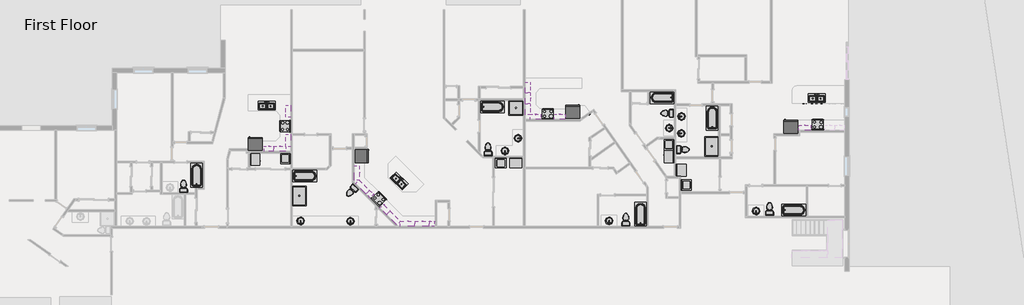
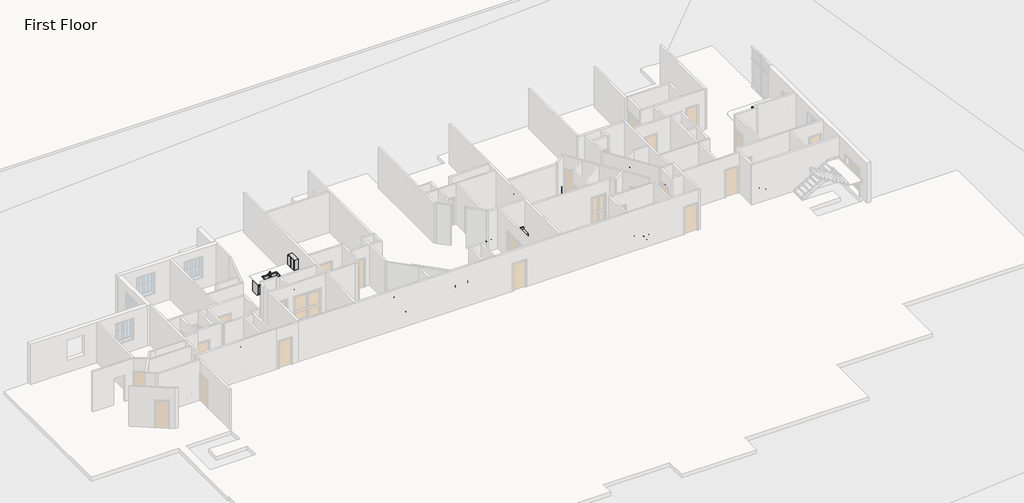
# One storey, part 15 of 17: 68 furniture elements, 29 flow terminals, 16 proxies.
"""IFC4 building model written with IfcOpenShell, lengths in millimetres."""

from ifc_helpers import new_model, si_unit, origin, place, context, project, spatial, transform, mapped, element, save
from components import proxy_6b4a07a9, proxy_fbb4c072, proxy_93150df1, proxy_9109806d, proxy_718fa39f, flow_terminal_54cced83, flow_terminal_5dba0d75, flow_terminal_a53be723, flow_terminal_d49f872f, toilet_domestic_3d_toilet_domestic_3d_f7549cf7, toilet_domestic_3d_toilet_domestic_3d_183bbd19, toilet_domestic_3d_toilet_domestic_3d_a08e12bc, toilet_domestic_3d_toilet_domestic_3d_5530cc89, tub_rectangular_3d_tub_rectangular_3d_72a4d900, tub_rectangular_3d_tub_rectangular_3d_cbc2c449, furniture_0fc2bd2a, furniture_337523c0, furniture_6e8794dd, furniture_07bc9410, furniture_6ace90bf, furniture_b282fead, furniture_6a014568, furniture_338da5bd, furniture_b74d3f52, furniture_7de88fd5, furniture_b6fbc004, furniture_b4094f2d, furniture_07c0da44, furniture_bfd559e3, base_cabinet_filler_base_cabinet_filler_dff9ed13, base_cabinet_filler_base_cabinet_filler_01d9e414, base_cabinet_filler_base_cabinet_filler_890d7b95, base_cabinet_filler_base_cabinet_filler_ec835e29, base_cabinet_filler_base_cabinet_filler_2f0b3f4e, base_cabinet_filler_base_cabinet_filler_5f1ac9d6, base_cabinet_filler_base_cabinet_filler_83579e99, base_cabinet_filler_base_cabinet_filler_783ad0b1, base_cabinet_filler_base_cabinet_filler_ca2a3ea1, furniture_de2c603d, furniture_a8c34398, furniture_09d05a5b, furniture_b1f16c95, furniture_c6a3367d, upper_cabinet_filler_wall_upper_cabinet_filler_wall_ebdf5134, furniture_d9efccb3, furniture_a47b5ef4, furniture_b880e30f, furniture_9117db5d, furniture_b34976c1, furniture_fa9c5d5b

model = new_model("IFC4")

# Units and contexts
model_context = context("Model", 3, world=origin())
ifc_project = project(units=[si_unit("LENGTHUNIT", "METRE", prefix="MILLI")], contexts=[model_context])

# Site, building, storey
site = spatial("IfcSite", under=ifc_project)
building = spatial("IfcBuilding", under=site)
storey = spatial("IfcBuildingStorey", under=building, Name="First Floor", Elevation=0.0)

# Proxies
placement = place(None, origin())
proxy_shape = proxy_6b4a07a9(model_context)
element("IfcBuildingElementProxy", 1, Name="Dryer : 30\" x 25\" x 35\"", ObjectType="Dryer : 30\" x 25\" x 35\"", at=placement, inside=storey, context=model_context, shape_type="MappedRepresentation", body=[
    mapped(proxy_shape, transform((20016.6056012, 6188.6428501, 0.0), x_axis=(0.0, 1.0, 0.0), y_axis=(-1.0, 0.0, 0.0), z_axis=(0.0, 0.0, 1.0))),
])
element("IfcBuildingElementProxy", 2, Name="Dryer : 30\" x 25\" x 35\"", ObjectType="Dryer : 30\" x 25\" x 35\"", at=placement, inside=storey, context=model_context, shape_type="MappedRepresentation", body=[
    mapped(proxy_shape, transform((35783.3803438, 6069.89864, 0.0), x_axis=(1.0, 0.0, 0.0), y_axis=(0.0, 1.0, 0.0), z_axis=(0.0, 0.0, 1.0))),
])
element("IfcBuildingElementProxy", 3, Name="Dryer : 30\" x 25\" x 35\"", ObjectType="Dryer : 30\" x 25\" x 35\"", at=placement, inside=storey, context=model_context, shape_type="MappedRepresentation", body=[
    mapped(proxy_shape, transform((45605.9742487, 7175.2177628, 0.0), x_axis=(0.0, -1.0, 0.0), y_axis=(1.0, 0.0, 0.0), z_axis=(0.0, 0.0, 1.0))),
])
element("IfcBuildingElementProxy", 4, Name="Dryer : 30\" x 25\" x 35\"", ObjectType="Dryer : 30\" x 25\" x 35\"", at=placement, inside=storey, context=model_context, shape_type="MappedRepresentation", body=[
    mapped(proxy_shape, transform((46984.5962563, 5488.2018914, 0.0), x_axis=(0.0, 1.0, 0.0), y_axis=(-1.0, 0.0, 0.0), z_axis=(0.0, 0.0, 1.0))),
])
proxy_2_shape = proxy_fbb4c072(model_context)
element("IfcBuildingElementProxy", 5, Name="Range : 30\" x 26\"", ObjectType="Range : 30\" x 26\"", at=placement, inside=storey, context=model_context, shape_type="MappedRepresentation", body=[
    mapped(proxy_2_shape, transform((55706.1485135, 9105.3667096, 0.0), x_axis=(-1.0, 0.0, 0.0), y_axis=(0.0, -1.0, 0.0), z_axis=(0.0, 0.0, 1.0))),
])
element("IfcBuildingElementProxy", 6, Name="Range : 30\" x 26\"", ObjectType="Range : 30\" x 26\"", at=placement, inside=storey, context=model_context, shape_type="MappedRepresentation", body=[
    mapped(proxy_2_shape, transform((38622.0783397, 9780.1410099, 0.0), x_axis=(-1.0, 0.0, 0.0), y_axis=(0.0, -1.0, 0.0), z_axis=(0.0, 0.0, 1.0))),
])
element("IfcBuildingElementProxy", 7, Name="Range : 30\" x 26\"", ObjectType="Range : 30\" x 26\"", at=placement, inside=storey, context=model_context, shape_type="MappedRepresentation", body=[
    mapped(proxy_2_shape, transform((28043.6511381, 4045.4027795, 0.0), x_axis=(-0.7071067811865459, 0.7071067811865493, 0.0), y_axis=(-0.7071067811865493, -0.7071067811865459, 0.0), z_axis=(0.0, 0.0, 1.0))),
])
element("IfcBuildingElementProxy", 8, Name="Range : 30\" x 26\"", ObjectType="Range : 30\" x 26\"", at=placement, inside=storey, context=model_context, shape_type="MappedRepresentation", body=[
    mapped(proxy_2_shape, transform((21305.5073571, 9084.405075, 0.0), x_axis=(0.0, -1.0, 0.0), y_axis=(1.0, 0.0, 0.0), z_axis=(0.0, 0.0, 1.0))),
])
proxy_3_shape = proxy_93150df1(model_context)
element("IfcBuildingElementProxy", 9, Name="Refrigerator : 35\" x 32\" LH", ObjectType="Refrigerator : 35\" x 32\" LH", at=placement, inside=storey, context=model_context, shape_type="MappedRepresentation", body=[
    mapped(proxy_3_shape, transform((39817.0847694, 9590.3888634, 0.0), x_axis=(-1.0, 0.0, 0.0), y_axis=(0.0, -1.0, 0.0), z_axis=(0.0, 0.0, 1.0))),
])
proxy_4_shape = proxy_9109806d(model_context)
element("IfcBuildingElementProxy", 10, Name="Refrigerator : 35\" x 32\" RH", ObjectType="Refrigerator : 35\" x 32\" RH", at=placement, inside=storey, context=model_context, shape_type="MappedRepresentation", body=[
    mapped(proxy_4_shape, transform((53624.9360135, 8648.9949749, 0.0), x_axis=(-1.0, 0.0, 0.0), y_axis=(0.0, -1.0, 0.0), z_axis=(0.0, 0.0, 1.0))),
])
element("IfcBuildingElementProxy", 11, Name="Refrigerator : 35\" x 32\" RH", ObjectType="Refrigerator : 35\" x 32\" RH", at=placement, inside=storey, context=model_context, shape_type="MappedRepresentation", body=[
    mapped(proxy_4_shape, transform((26450.70388, 6811.7574244, 0.0), x_axis=(0.0020172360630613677, 0.9999979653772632, 0.0), y_axis=(-0.9999979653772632, 0.0020172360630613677, 0.0), z_axis=(0.0, 0.0, 1.0))),
])
element("IfcBuildingElementProxy", 12, Name="Refrigerator : 35\" x 32\" RH", ObjectType="Refrigerator : 35\" x 32\" RH", at=placement, inside=storey, context=model_context, shape_type="MappedRepresentation", body=[
    mapped(proxy_4_shape, transform((19720.4542781, 7559.8584529, 0.0), x_axis=(-1.0, 0.0, 0.0), y_axis=(0.0, -1.0, 0.0), z_axis=(0.0, 0.0, 1.0))),
])
proxy_5_shape = proxy_718fa39f(model_context)
element("IfcBuildingElementProxy", 13, Name="Washer : 27\" x 25\" x 35\"", ObjectType="Washer : 27\" x 25\" x 35\"", at=placement, inside=storey, context=model_context, shape_type="MappedRepresentation", body=[
    mapped(proxy_5_shape, transform((21369.2577923, 7066.4225435, 0.0), x_axis=(0.0, -1.0, 0.0), y_axis=(1.0, 0.0, 0.0), z_axis=(0.0, 0.0, 1.0))),
])
element("IfcBuildingElementProxy", 14, Name="Washer : 27\" x 25\" x 35\"", ObjectType="Washer : 27\" x 25\" x 35\"", at=placement, inside=storey, context=model_context, shape_type="MappedRepresentation", body=[
    mapped(proxy_5_shape, transform((34845.0746645, 6105.410079, 0.0), x_axis=(1.0, 0.0, 0.0), y_axis=(0.0, 1.0, 0.0), z_axis=(0.0, 0.0, 1.0))),
])
element("IfcBuildingElementProxy", 15, Name="Washer : 27\" x 25\" x 35\"", ObjectType="Washer : 27\" x 25\" x 35\"", at=placement, inside=storey, context=model_context, shape_type="MappedRepresentation", body=[
    mapped(proxy_5_shape, transform((47265.412252, 4547.012838, 0.0), x_axis=(0.0, 1.0, 0.0), y_axis=(-1.0, 0.0, 0.0), z_axis=(0.0, 0.0, 1.0))),
])
element("IfcBuildingElementProxy", 16, Name="Washer : 27\" x 25\" x 35\"", ObjectType="Washer : 27\" x 25\" x 35\"", at=placement, inside=storey, context=model_context, shape_type="MappedRepresentation", body=[
    mapped(proxy_5_shape, transform((45641.4856877, 7942.380883, 0.0), x_axis=(0.0, -1.0, 0.0), y_axis=(1.0, 0.0, 0.0), z_axis=(0.0, 0.0, 1.0))),
])

# Flow terminals
flow_terminal_shape = flow_terminal_54cced83(model_context)
element("IfcFlowTerminal", 17, ObjectType="Shower Base-3D : 36\" x 36\"", at=placement, inside=storey, context=model_context, shape_type="MappedRepresentation", body=[
    mapped(flow_terminal_shape, transform((36225.8678001, 9849.9910099, 0.0), x_axis=(1.0, 0.0, 0.0), y_axis=(0.0, 1.0, 0.0), z_axis=(0.0, 0.0, 1.0))),
])
flow_terminal_2_shape = flow_terminal_5dba0d75(model_context)
element("IfcFlowTerminal", 18, ObjectType="Shower Base-3D : 48\" x 34\"", at=placement, inside=storey, context=model_context, shape_type="MappedRepresentation", body=[
    mapped(flow_terminal_2_shape, transform((48606.6852525, 7416.8, 0.0), x_axis=(0.0, 1.0, 0.0), y_axis=(-1.0, 0.0, 0.0), z_axis=(0.0, 0.0, 1.0))),
])
element("IfcFlowTerminal", 19, ObjectType="Shower Base-3D : 48\" x 34\"", at=placement, inside=storey, context=model_context, shape_type="MappedRepresentation", body=[
    mapped(flow_terminal_2_shape, transform((22513.3830518, 4283.4091714, 0.0), x_axis=(0.0, -1.0, 0.0), y_axis=(1.0, 0.0, 0.0), z_axis=(0.0, 0.0, 1.0))),
])
flow_terminal_3_shape = flow_terminal_a53be723(model_context)
element("IfcFlowTerminal", 20, ObjectType="Sink Kitchen-Double : 42\" x 21\"", at=placement, inside=storey, context=model_context, shape_type="MappedRepresentation", body=[
    mapped(flow_terminal_3_shape, transform((55238.0740966, 10470.4786098, 0.0), x_axis=(1.0, 0.0, 0.0), y_axis=(0.0, 1.0, 0.0), z_axis=(0.0, 0.0, 1.0))),
])
element("IfcFlowTerminal", 21, ObjectType="Sink Kitchen-Double : 42\" x 21\"", at=placement, inside=storey, context=model_context, shape_type="MappedRepresentation", body=[
    mapped(flow_terminal_3_shape, transform((28820.7305792, 5237.5515776, 0.0), x_axis=(0.7071067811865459, -0.7071067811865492, 0.0), y_axis=(0.7071067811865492, 0.7071067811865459, 0.0), z_axis=(0.0, 0.0, 1.0))),
])
element("IfcFlowTerminal", 22, ObjectType="Sink Kitchen-Double : 42\" x 21\"", at=placement, inside=storey, context=model_context, shape_type="MappedRepresentation", body=[
    mapped(flow_terminal_3_shape, transform((20432.5681165, 9996.4596739, 0.0), x_axis=(1.0, 0.0, 0.0), y_axis=(0.0, 1.0, 0.0), z_axis=(0.0, 0.0, 1.0))),
])
flow_terminal_4_shape = flow_terminal_d49f872f(model_context)
element("IfcFlowTerminal", 23, ObjectType="Sink Vanity-Round : 19\" x 19\"", at=placement, inside=storey, context=model_context, shape_type="MappedRepresentation", body=[
    mapped(flow_terminal_4_shape, transform((51518.9261462, 3402.5686234, 0.0), x_axis=(-1.0, 0.0, 0.0), y_axis=(0.0, -1.0, 0.0), z_axis=(0.0, 0.0, 1.0))),
])
element("IfcFlowTerminal", 24, ObjectType="Sink Vanity-Round : 19\" x 19\"", at=placement, inside=storey, context=model_context, shape_type="MappedRepresentation", body=[
    mapped(flow_terminal_4_shape, transform((46769.360735, 8145.114969, 0.0), x_axis=(0.0, 1.0, 0.0), y_axis=(-1.0, 0.0, 0.0), z_axis=(0.0, 0.0, 1.0))),
])
element("IfcFlowTerminal", 25, ObjectType="Sink Vanity-Round : 19\" x 19\"", at=placement, inside=storey, context=model_context, shape_type="MappedRepresentation", body=[
    mapped(flow_terminal_4_shape, transform((46781.1377403, 9211.914969, 0.0), x_axis=(0.0, 1.0, 0.0), y_axis=(-1.0, 0.0, 0.0), z_axis=(0.0, 0.0, 1.0))),
])
element("IfcFlowTerminal", 26, ObjectType="Sink Vanity-Round : 19\" x 19\"", at=placement, inside=storey, context=model_context, shape_type="MappedRepresentation", body=[
    mapped(flow_terminal_4_shape, transform((42218.0028589, 2791.1233129, 0.0), x_axis=(-1.0, 0.0, 0.0), y_axis=(0.0, -1.0, 0.0), z_axis=(0.0, 0.0, 1.0))),
])
element("IfcFlowTerminal", 27, ObjectType="Sink Vanity-Round : 19\" x 19\"", at=placement, inside=storey, context=model_context, shape_type="MappedRepresentation", body=[
    mapped(flow_terminal_4_shape, transform((36278.8834938, 8026.036859, 0.0), x_axis=(-0.0012471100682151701, -0.9999992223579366, 0.0), y_axis=(0.9999992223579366, -0.0012471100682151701, 0.0), z_axis=(0.0, 0.0, 1.0))),
])
element("IfcFlowTerminal", 28, ObjectType="Sink Vanity-Round : 19\" x 19\"", at=placement, inside=storey, context=model_context, shape_type="MappedRepresentation", body=[
    mapped(flow_terminal_4_shape, transform((35619.8891254, 7212.353211, 0.0), x_axis=(-0.9999968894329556, 0.002494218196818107, 0.0), y_axis=(-0.002494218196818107, -0.9999968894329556, 0.0), z_axis=(0.0, 0.0, 1.0))),
])
element("IfcFlowTerminal", 29, ObjectType="Sink Vanity-Round : 19\" x 19\"", at=placement, inside=storey, context=model_context, shape_type="MappedRepresentation", body=[
    mapped(flow_terminal_4_shape, transform((45838.1211111, 8667.3095625, 0.0), x_axis=(0.0, -1.0, 0.0), y_axis=(1.0, 0.0, 0.0), z_axis=(0.0, 0.0, 1.0))),
])
element("IfcFlowTerminal", 30, ObjectType="Sink Vanity-Round : 19\" x 19\"", at=placement, inside=storey, context=model_context, shape_type="MappedRepresentation", body=[
    mapped(flow_terminal_4_shape, transform((25848.431225, 2766.506956, 0.0), x_axis=(-0.9999992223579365, 0.0012471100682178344, 0.0), y_axis=(-0.0012471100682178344, -0.9999992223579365, 0.0), z_axis=(0.0, 0.0, 1.0))),
])
element("IfcFlowTerminal", 31, ObjectType="Sink Vanity-Round : 19\" x 19\"", at=placement, inside=storey, context=model_context, shape_type="MappedRepresentation", body=[
    mapped(flow_terminal_4_shape, transform((22697.558797, 2783.0261745, 0.0), x_axis=(-0.9999968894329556, 0.002494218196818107, 0.0), y_axis=(-0.002494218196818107, -0.9999968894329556, 0.0), z_axis=(0.0, 0.0, 1.0))),
])
toilet_domestic_3d_toilet_domestic_3d_shape = toilet_domestic_3d_toilet_domestic_3d_f7549cf7(model_context)
toilet_domestic_3d_toilet_domestic_3d_2_shape = toilet_domestic_3d_toilet_domestic_3d_183bbd19(model_context)
element("IfcFlowTerminal", 32, ObjectType="Toilet-Domestic-3D : Toilet-Domestic-3D", at=placement, inside=storey, context=model_context, shape_type="MappedRepresentation", body=[
    mapped(toilet_domestic_3d_toilet_domestic_3d_shape, transform((52273.7982354, 3556.0, 0.0), x_axis=(-1.0, 0.0, 0.0), y_axis=(0.0, -1.0, 0.0), z_axis=(0.0, 0.0, 1.0))),
    mapped(toilet_domestic_3d_toilet_domestic_3d_2_shape, transform((52273.7982354, 3556.0, 0.0), x_axis=(-1.0, 0.0, 0.0), y_axis=(0.0, -1.0, 0.0), z_axis=(0.0, 0.0, 1.0))),
])
element("IfcFlowTerminal", 33, ObjectType="Toilet-Domestic-3D : Toilet-Domestic-3D", at=placement, inside=storey, context=model_context, shape_type="MappedRepresentation", body=[
    mapped(toilet_domestic_3d_toilet_domestic_3d_shape, transform((46888.4, 7213.6, 0.0), x_axis=(0.0, 1.0, 0.0), y_axis=(-1.0, 0.0, 0.0), z_axis=(0.0, 0.0, 1.0))),
    mapped(toilet_domestic_3d_toilet_domestic_3d_2_shape, transform((46888.4, 7213.6, 0.0), x_axis=(0.0, 1.0, 0.0), y_axis=(-1.0, 0.0, 0.0), z_axis=(0.0, 0.0, 1.0))),
])
element("IfcFlowTerminal", 34, ObjectType="Toilet-Domestic-3D : Toilet-Domestic-3D", at=placement, inside=storey, context=model_context, shape_type="MappedRepresentation", body=[
    mapped(toilet_domestic_3d_toilet_domestic_3d_shape, transform((45694.6, 9512.0893477, 0.0), x_axis=(0.0, -1.0, 0.0), y_axis=(1.0, 0.0, 0.0), z_axis=(0.0, 0.0, 1.0))),
    mapped(toilet_domestic_3d_toilet_domestic_3d_2_shape, transform((45694.6, 9512.0893477, 0.0), x_axis=(0.0, -1.0, 0.0), y_axis=(1.0, 0.0, 0.0), z_axis=(0.0, 0.0, 1.0))),
])
element("IfcFlowTerminal", 35, ObjectType="Toilet-Domestic-3D : Toilet-Domestic-3D", at=placement, inside=storey, context=model_context, shape_type="MappedRepresentation", body=[
    mapped(toilet_domestic_3d_toilet_domestic_3d_shape, transform((43180.0, 2882.9, 0.0), x_axis=(-1.0, 0.0, 0.0), y_axis=(0.0, -1.0, 0.0), z_axis=(0.0, 0.0, 1.0))),
    mapped(toilet_domestic_3d_toilet_domestic_3d_2_shape, transform((43180.0, 2882.9, 0.0), x_axis=(-1.0, 0.0, 0.0), y_axis=(0.0, -1.0, 0.0), z_axis=(0.0, 0.0, 1.0))),
])
element("IfcFlowTerminal", 36, ObjectType="Toilet-Domestic-3D : Toilet-Domestic-3D", at=placement, inside=storey, context=model_context, shape_type="MappedRepresentation", body=[
    mapped(toilet_domestic_3d_toilet_domestic_3d_shape, transform((34456.7727327, 7333.4715848, 0.0), x_axis=(-1.0, 0.0, 0.0), y_axis=(0.0, -1.0, 0.0), z_axis=(0.0, 0.0, 1.0))),
    mapped(toilet_domestic_3d_toilet_domestic_3d_2_shape, transform((34456.7727327, 7333.4715848, 0.0), x_axis=(-1.0, 0.0, 0.0), y_axis=(0.0, -1.0, 0.0), z_axis=(0.0, 0.0, 1.0))),
])
element("IfcFlowTerminal", 37, ObjectType="Toilet-Domestic-3D : Toilet-Domestic-3D", at=placement, inside=storey, context=model_context, shape_type="MappedRepresentation", body=[
    mapped(toilet_domestic_3d_toilet_domestic_3d_shape, transform((15189.2, 4981.3051988, 0.0), x_axis=(-1.0, 0.0, 0.0), y_axis=(0.0, -1.0, 0.0), z_axis=(0.0, 0.0, 1.0))),
    mapped(toilet_domestic_3d_toilet_domestic_3d_2_shape, transform((15189.2, 4981.3051988, 0.0), x_axis=(-1.0, 0.0, 0.0), y_axis=(0.0, -1.0, 0.0), z_axis=(0.0, 0.0, 1.0))),
])
toilet_domestic_3d_toilet_domestic_3d_3_shape = toilet_domestic_3d_toilet_domestic_3d_a08e12bc(model_context)
toilet_domestic_3d_toilet_domestic_3d_4_shape = toilet_domestic_3d_toilet_domestic_3d_5530cc89(model_context)
element("IfcFlowTerminal", 38, ObjectType="Toilet-Domestic-3D : Toilet-Domestic-3D", at=placement, inside=storey, context=model_context, shape_type="MappedRepresentation", body=[
    mapped(toilet_domestic_3d_toilet_domestic_3d_3_shape, transform((25747.809259, 4514.7153485, 0.0), x_axis=(-0.7196179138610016, 0.6943702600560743, 0.0), y_axis=(-0.6943702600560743, -0.7196179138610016, 0.0), z_axis=(0.0, 0.0, 1.0))),
    mapped(toilet_domestic_3d_toilet_domestic_3d_4_shape, transform((25747.809259, 4514.7153485, 0.0), x_axis=(-0.7196179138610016, 0.6943702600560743, 0.0), y_axis=(-0.6943702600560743, -0.7196179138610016, 0.0), z_axis=(0.0, 0.0, 1.0))),
])
tub_rectangular_3d_tub_rectangular_3d_shape = tub_rectangular_3d_tub_rectangular_3d_72a4d900(model_context)
element("IfcFlowTerminal", 39, ObjectType="Tub-Rectangular-3D : Tub-Rectangular-3D", at=placement, inside=storey, context=model_context, shape_type="MappedRepresentation", body=[
    mapped(tub_rectangular_3d_tub_rectangular_3d_shape, transform((16456.2083594, 5935.4931457, 0.0), x_axis=(0.0, 1.0, 0.0), y_axis=(-1.0, 0.0, 0.0), z_axis=(0.0, 0.0, 1.0))),
])
element("IfcFlowTerminal", 40, ObjectType="Tub-Rectangular-3D : Tub-Rectangular-3D", at=placement, inside=storey, context=model_context, shape_type="MappedRepresentation", body=[
    mapped(tub_rectangular_3d_tub_rectangular_3d_shape, transform((44549.1449591, 3463.6121401, 0.0), x_axis=(0.0, 1.0, 0.0), y_axis=(-1.0, 0.0, 0.0), z_axis=(0.0, 0.0, 1.0))),
])
element("IfcFlowTerminal", 41, ObjectType="Tub-Rectangular-3D : Tub-Rectangular-3D", at=placement, inside=storey, context=model_context, shape_type="MappedRepresentation", body=[
    mapped(tub_rectangular_3d_tub_rectangular_3d_shape, transform((45138.2869119, 10944.1378349, 0.0), x_axis=(-1.0, 0.0, 0.0), y_axis=(0.0, -1.0, 0.0), z_axis=(0.0, 0.0, 1.0))),
])
element("IfcFlowTerminal", 42, ObjectType="Tub-Rectangular-3D : Tub-Rectangular-3D", at=placement, inside=storey, context=model_context, shape_type="MappedRepresentation", body=[
    mapped(tub_rectangular_3d_tub_rectangular_3d_shape, transform((49089.4772963, 9555.5696783, 0.0), x_axis=(0.0, 1.0, 0.0), y_axis=(-1.0, 0.0, 0.0), z_axis=(0.0, 0.0, 1.0))),
])
element("IfcFlowTerminal", 43, ObjectType="Tub-Rectangular-3D : Tub-Rectangular-3D", at=placement, inside=storey, context=model_context, shape_type="MappedRepresentation", body=[
    mapped(tub_rectangular_3d_tub_rectangular_3d_shape, transform((54149.0676523, 2945.4044819, 0.0), x_axis=(1.0, 0.0, 0.0), y_axis=(0.0, 1.0, 0.0), z_axis=(0.0, 0.0, 1.0))),
])
tub_rectangular_3d_tub_rectangular_3d_2_shape = tub_rectangular_3d_tub_rectangular_3d_cbc2c449(model_context)
element("IfcFlowTerminal", 44, ObjectType="Tub-Rectangular-3D : Tub-Rectangular-3D", at=placement, inside=storey, context=model_context, shape_type="MappedRepresentation", body=[
    mapped(tub_rectangular_3d_tub_rectangular_3d_2_shape, transform((35083.0533193, 10357.9910099, 0.0), x_axis=(1.0, 0.0, 0.0), y_axis=(0.0, 1.0, 0.0), z_axis=(0.0, 0.0, 1.0))),
])
element("IfcFlowTerminal", 45, ObjectType="Tub-Rectangular-3D : Tub-Rectangular-3D", at=placement, inside=storey, context=model_context, shape_type="MappedRepresentation", body=[
    mapped(tub_rectangular_3d_tub_rectangular_3d_2_shape, transform((23209.8603258, 5986.0380642, 0.0), x_axis=(1.0, 0.0, 0.0), y_axis=(0.0, 1.0, 0.0), z_axis=(0.0, 0.0, 1.0))),
])

# Furniture
furniture_shape = furniture_0fc2bd2a(model_context)
element("IfcFurniture", 46, ObjectType="Base Cabinet-Single Door & Drawer : 15\"'", at=placement, inside=storey, context=model_context, shape_type="MappedRepresentation", body=[
    mapped(furniture_shape, transform((28365.0552156, 2777.7431755, 0.0), x_axis=(-0.7071067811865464, 0.7071067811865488, 0.0), y_axis=(-0.7071067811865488, -0.7071067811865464, 0.0), z_axis=(0.0, 0.0, 1.0))),
])
element("IfcFurniture", 47, ObjectType="Base Cabinet-Single Door & Drawer : 15\"'", at=placement, inside=storey, context=model_context, shape_type="MappedRepresentation", body=[
    mapped(furniture_shape, transform((26379.2350583, 4778.534813, 0.0), x_axis=(-0.7056789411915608, 0.7085317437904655, 0.0), y_axis=(-0.7085317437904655, -0.7056789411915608, 0.0), z_axis=(0.0, 0.0, 1.0))),
])
furniture_2_shape = furniture_337523c0(model_context)
element("IfcFurniture", 48, ObjectType="Base Cabinet-Single Door & Drawer : 12\"", at=placement, inside=storey, context=model_context, shape_type="MappedRepresentation", body=[
    mapped(furniture_2_shape, transform((21965.9073571, 8151.2673701, 0.0), x_axis=(0.0, 1.0, 0.0), y_axis=(-1.0, 0.0, 0.0), z_axis=(0.0, 0.0, 1.0))),
])
furniture_3_shape = furniture_6e8794dd(model_context)
element("IfcFurniture", 49, ObjectType="Base Cabinet-Single Door & Drawer : 12\"", at=placement, inside=storey, context=model_context, shape_type="MappedRepresentation", body=[
    mapped(furniture_3_shape, transform((21965.9073571, 9255.5427799, 0.0), x_axis=(0.0, -1.0, 0.0), y_axis=(1.0, 0.0, 0.0), z_axis=(0.0, 0.0, 1.0))),
])
furniture_4_shape = furniture_07bc9410(model_context)
element("IfcFurniture", 50, ObjectType="Base Cabinet-Single Door & Drawer : 18\"", at=placement, inside=storey, context=model_context, shape_type="MappedRepresentation", body=[
    mapped(furniture_4_shape, transform((56766.9108085, 8422.9542414, 0.0), x_axis=(1.0, 0.0, 0.0), y_axis=(0.0, 1.0, 0.0), z_axis=(0.0, 0.0, 1.0))),
])
furniture_5_shape = furniture_6ace90bf(model_context)
element("IfcFurniture", 51, ObjectType="Base Cabinet-Single Door & Drawer : 18\"", at=placement, inside=storey, context=model_context, shape_type="MappedRepresentation", body=[
    mapped(furniture_5_shape, transform((54396.8256323, 10752.2240109, 0.0), x_axis=(1.0, 0.0, 0.0), y_axis=(0.0, 1.0, 0.0), z_axis=(0.0, 0.0, 1.0))),
])
element("IfcFurniture", 52, ObjectType="Base Cabinet-Single Door & Drawer : 18\"", at=placement, inside=storey, context=model_context, shape_type="MappedRepresentation", body=[
    mapped(furniture_5_shape, transform((40152.0280135, 11733.611548, 0.0), x_axis=(1.0, 0.0, 0.0), y_axis=(0.0, 1.0, 0.0), z_axis=(0.0, 0.0, 1.0))),
])
furniture_6_shape = furniture_b282fead(model_context)
element("IfcFurniture", 53, ObjectType="Base Cabinet-Single Door & Drawer : 21\"", at=placement, inside=storey, context=model_context, shape_type="MappedRepresentation", body=[
    mapped(furniture_6_shape, transform((19553.2196522, 10303.605075, 0.0), x_axis=(1.0, 0.0, 0.0), y_axis=(0.0, 1.0, 0.0), z_axis=(0.0, 0.0, 1.0))),
])
furniture_7_shape = furniture_6a014568(model_context)
element("IfcFurniture", 54, ObjectType="Base Cabinet-Single Door & Drawer : 24\"", at=placement, inside=storey, context=model_context, shape_type="MappedRepresentation", body=[
    mapped(furniture_7_shape, transform((28846.7325549, 6103.4702041, 0.0), x_axis=(-0.7071067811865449, -0.7071067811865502, 0.0), y_axis=(0.7071067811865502, -0.7071067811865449, 0.0), z_axis=(0.0, 0.0, 1.0))),
])
element("IfcFurniture", 55, ObjectType="Base Cabinet-Single Door & Drawer : 24\"", at=placement, inside=storey, context=model_context, shape_type="MappedRepresentation", body=[
    mapped(furniture_7_shape, transform((29682.3380261, 5214.8665001, 0.0), x_axis=(0.7071067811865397, 0.7071067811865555, 0.0), y_axis=(-0.7071067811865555, 0.7071067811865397, 0.0), z_axis=(0.0, 0.0, 1.0))),
])
furniture_8_shape = furniture_338da5bd(model_context)
element("IfcFurniture", 56, ObjectType="Base Cabinet-Double Door & 2 Drawer : 30\"", at=placement, inside=storey, context=model_context, shape_type="MappedRepresentation", body=[
    mapped(furniture_8_shape, transform((36816.4178001, 10406.7738431, 0.0), x_axis=(0.0, 1.0, 0.0), y_axis=(-1.0, 0.0, 0.0), z_axis=(0.0, 0.0, 1.0))),
])
element("IfcFurniture", 57, ObjectType="Base Cabinet-Double Door & 2 Drawer : 30\"", at=placement, inside=storey, context=model_context, shape_type="MappedRepresentation", body=[
    mapped(furniture_8_shape, transform((39016.6724743, 9119.7410099, 0.0), x_axis=(-1.0, 0.0, 0.0), y_axis=(0.0, -1.0, 0.0), z_axis=(0.0, 0.0, 1.0))),
])
element("IfcFurniture", 58, ObjectType="Base Cabinet-Double Door & 2 Drawer : 30\"", at=placement, inside=storey, context=model_context, shape_type="MappedRepresentation", body=[
    mapped(furniture_8_shape, transform((26782.2215797, 4373.9191641, 0.0), x_axis=(-0.7056789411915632, 0.7085317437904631, 0.0), y_axis=(-0.7085317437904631, -0.7056789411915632, 0.0), z_axis=(0.0, 0.0, 1.0))),
])
furniture_9_shape = furniture_b74d3f52(model_context)
element("IfcFurniture", 59, ObjectType="Base Cabinet-Double Door & 2 Drawer : 33\"", at=placement, inside=storey, context=model_context, shape_type="MappedRepresentation", body=[
    mapped(furniture_9_shape, transform((56106.5108085, 8422.9542414, 0.0), x_axis=(1.0, 0.0, 0.0), y_axis=(0.0, 1.0, 0.0), z_axis=(0.0, 0.0, 1.0))),
])
furniture_10_shape = furniture_7de88fd5(model_context)
element("IfcFurniture", 60, ObjectType="Base Cabinet-Double Door & 2 Drawer : 33\"", at=placement, inside=storey, context=model_context, shape_type="MappedRepresentation", body=[
    mapped(furniture_10_shape, transform((54543.7862184, 8422.9542414, 0.0), x_axis=(-1.0, 0.0, 0.0), y_axis=(0.0, -1.0, 0.0), z_axis=(0.0, 0.0, 1.0))),
])
element("IfcFurniture", 61, ObjectType="Base Cabinet-Double Door & 2 Drawer : 33\"", at=placement, inside=storey, context=model_context, shape_type="MappedRepresentation", body=[
    mapped(furniture_10_shape, transform((20651.145062, 7103.205075, 0.0), x_axis=(-1.0, 0.0, 0.0), y_axis=(0.0, -1.0, 0.0), z_axis=(0.0, 0.0, 1.0))),
])
furniture_11_shape = furniture_b6fbc004(model_context)
element("IfcFurniture", 62, ObjectType="Base Cabinet-Double Door & 2 Drawer : 36\"", at=placement, inside=storey, context=model_context, shape_type="MappedRepresentation", body=[
    mapped(furniture_11_shape, transform((30655.8953946, 2359.3591714, 0.0), x_axis=(-1.0, 0.0, 0.0), y_axis=(0.0, -1.0, 0.0), z_axis=(0.0, 0.0, 1.0))),
])
element("IfcFurniture", 63, ObjectType="Base Cabinet-Double Door & 2 Drawer : 36\"", at=placement, inside=storey, context=model_context, shape_type="MappedRepresentation", body=[
    mapped(furniture_11_shape, transform((29741.4953946, 2359.3591714, 0.0), x_axis=(-1.0, 0.0, 0.0), y_axis=(0.0, -1.0, 0.0), z_axis=(0.0, 0.0, 1.0))),
])
element("IfcFurniture", 64, ObjectType="Base Cabinet-Double Door & 2 Drawer : 36\"", at=placement, inside=storey, context=model_context, shape_type="MappedRepresentation", body=[
    mapped(furniture_11_shape, transform((27907.0621534, 3235.7362377, 0.0), x_axis=(-0.7071067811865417, 0.7071067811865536, 0.0), y_axis=(-0.7071067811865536, -0.7071067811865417, 0.0), z_axis=(0.0, 0.0, 1.0))),
])
element("IfcFurniture", 65, ObjectType="Base Cabinet-Double Door & 2 Drawer : 36\"", at=placement, inside=storey, context=model_context, shape_type="MappedRepresentation", body=[
    mapped(furniture_11_shape, transform((25998.6143708, 5897.3510915, 0.0), x_axis=(0.0, 1.0, 0.0), y_axis=(-1.0, 0.0, 0.0), z_axis=(0.0, 0.0, 1.0))),
])
furniture_12_shape = furniture_b4094f2d(model_context)
element("IfcFurniture", 66, ObjectType="Base Cabinet-Double Door & 2 Drawer : 39\"", at=placement, inside=storey, context=model_context, shape_type="MappedRepresentation", body=[
    mapped(furniture_12_shape, transform((38207.3800952, 11733.611548, 0.0), x_axis=(1.0, 0.0, 0.0), y_axis=(0.0, 1.0, 0.0), z_axis=(0.0, 0.0, 1.0))),
])
furniture_13_shape = furniture_07c0da44(model_context)
element("IfcFurniture", 67, ObjectType="Base Cabinet-Double Door & 2 Drawer : 48\"", at=placement, inside=storey, context=model_context, shape_type="MappedRepresentation", body=[
    mapped(furniture_13_shape, transform((55235.0256323, 10752.2240109, 0.0), x_axis=(1.0, 0.0, 0.0), y_axis=(0.0, 1.0, 0.0), z_axis=(0.0, 0.0, 1.0))),
])
element("IfcFurniture", 68, ObjectType="Base Cabinet-Double Door & 2 Drawer : 48\"", at=placement, inside=storey, context=model_context, shape_type="MappedRepresentation", body=[
    mapped(furniture_13_shape, transform((39313.8280135, 11733.611548, 0.0), x_axis=(1.0, 0.0, 0.0), y_axis=(0.0, 1.0, 0.0), z_axis=(0.0, 0.0, 1.0))),
])
element("IfcFurniture", 69, ObjectType="Base Cabinet-Double Door & 2 Drawer : 48\"", at=placement, inside=storey, context=model_context, shape_type="MappedRepresentation", body=[
    mapped(furniture_13_shape, transform((29035.7595853, 5456.8917634, 0.0), x_axis=(0.7071067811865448, -0.7071067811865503, 0.0), y_axis=(0.7071067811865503, 0.7071067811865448, 0.0), z_axis=(0.0, 0.0, 1.0))),
])
element("IfcFurniture", 70, ObjectType="Base Cabinet-Double Door & 2 Drawer : 48\"", at=placement, inside=storey, context=model_context, shape_type="MappedRepresentation", body=[
    mapped(furniture_13_shape, transform((29062.2587018, 5430.392647, 0.0), x_axis=(-0.7071067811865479, 0.7071067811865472, 0.0), y_axis=(-0.7071067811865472, -0.7071067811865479, 0.0), z_axis=(0.0, 0.0, 1.0))),
])
element("IfcFurniture", 71, ObjectType="Base Cabinet-Double Door & 2 Drawer : 48\"", at=placement, inside=storey, context=model_context, shape_type="MappedRepresentation", body=[
    mapped(furniture_13_shape, transform((20429.5196522, 10303.605075, 0.0), x_axis=(1.0, 0.0, 0.0), y_axis=(0.0, 1.0, 0.0), z_axis=(0.0, 0.0, 1.0))),
])
furniture_14_shape = furniture_bfd559e3(model_context)
element("IfcFurniture", 72, ObjectType="Base Cabinet-Corner Unit-Angled : 36\"", at=placement, inside=storey, context=model_context, shape_type="MappedRepresentation", body=[
    mapped(furniture_14_shape, transform((36816.4178001, 11206.8738431, 0.0), x_axis=(0.0, 1.0, 0.0), y_axis=(-1.0, 0.0, 0.0), z_axis=(0.0, 0.0, 1.0))),
])
element("IfcFurniture", 73, ObjectType="Base Cabinet-Corner Unit-Angled : 36\"", at=placement, inside=storey, context=model_context, shape_type="MappedRepresentation", body=[
    mapped(furniture_14_shape, transform((37343.155505, 9119.7410099, 0.0), x_axis=(-1.0, 0.0, 0.0), y_axis=(0.0, -1.0, 0.0), z_axis=(0.0, 0.0, 1.0))),
])
element("IfcFurniture", 74, ObjectType="Base Cabinet-Corner Unit-Angled : 36\"", at=placement, inside=storey, context=model_context, shape_type="MappedRepresentation", body=[
    mapped(furniture_14_shape, transform((21965.9073571, 7629.9427799, 0.0), x_axis=(0.0, -1.0, 0.0), y_axis=(1.0, 0.0, 0.0), z_axis=(0.0, 0.0, 1.0))),
])
element("IfcFurniture", 75, ObjectType="Base Cabinet-Corner Unit-Angled : 36\"", at=placement, inside=storey, context=model_context, shape_type="MappedRepresentation", body=[
    mapped(furniture_14_shape, transform((21445.5196522, 10303.605075, 0.0), x_axis=(1.0, 0.0, 0.0), y_axis=(0.0, 1.0, 0.0), z_axis=(0.0, 0.0, 1.0))),
])
base_cabinet_filler_base_cabinet_filler_shape = base_cabinet_filler_base_cabinet_filler_dff9ed13(model_context)
element("IfcFurniture", 76, ObjectType="Base Cabinet-Filler : Base Cabinet-Filler", at=placement, inside=storey, context=model_context, shape_type="MappedRepresentation", body=[
    mapped(base_cabinet_filler_base_cabinet_filler_shape, transform((36816.4178001, 10794.1238431, 0.0), x_axis=(0.0, 1.0, 0.0), y_axis=(-1.0, 0.0, 0.0), z_axis=(0.0, 0.0, 1.0))),
])
base_cabinet_filler_base_cabinet_filler_2_shape = base_cabinet_filler_base_cabinet_filler_01d9e414(model_context)
element("IfcFurniture", 77, ObjectType="Base Cabinet-Filler : Base Cabinet-Filler", at=placement, inside=storey, context=model_context, shape_type="MappedRepresentation", body=[
    mapped(base_cabinet_filler_base_cabinet_filler_2_shape, transform((54103.2549684, 8422.9542414, 0.0), x_axis=(-1.0, 0.0, 0.0), y_axis=(0.0, -1.0, 0.0), z_axis=(0.0, 0.0, 1.0))),
])
base_cabinet_filler_base_cabinet_filler_3_shape = base_cabinet_filler_base_cabinet_filler_890d7b95(model_context)
element("IfcFurniture", 78, ObjectType="Base Cabinet-Filler : Base Cabinet-Filler", at=placement, inside=storey, context=model_context, shape_type="MappedRepresentation", body=[
    mapped(base_cabinet_filler_base_cabinet_filler_3_shape, transform((37814.1857749, 9119.7410099, 0.0), x_axis=(-1.0, 0.0, 0.0), y_axis=(0.0, -1.0, 0.0), z_axis=(0.0, 0.0, 1.0))),
])
base_cabinet_filler_base_cabinet_filler_4_shape = base_cabinet_filler_base_cabinet_filler_ec835e29(model_context)
element("IfcFurniture", 79, ObjectType="Base Cabinet-Filler : Base Cabinet-Filler", at=placement, inside=storey, context=model_context, shape_type="MappedRepresentation", body=[
    mapped(base_cabinet_filler_base_cabinet_filler_4_shape, transform((36816.4178001, 10020.588574, 0.0), x_axis=(0.0, 1.0, 0.0), y_axis=(-1.0, 0.0, 0.0), z_axis=(0.0, 0.0, 1.0))),
])
base_cabinet_filler_base_cabinet_filler_5_shape = base_cabinet_filler_base_cabinet_filler_2f0b3f4e(model_context)
element("IfcFurniture", 80, ObjectType="Base Cabinet-Filler : Base Cabinet-Filler", at=placement, inside=storey, context=model_context, shape_type="MappedRepresentation", body=[
    mapped(base_cabinet_filler_base_cabinet_filler_5_shape, transform((25998.6143708, 5415.9043221, 0.0), x_axis=(0.0, 1.0, 0.0), y_axis=(-1.0, 0.0, 0.0), z_axis=(0.0, 0.0, 1.0))),
])
base_cabinet_filler_base_cabinet_filler_6_shape = base_cabinet_filler_base_cabinet_filler_5f1ac9d6(model_context)
element("IfcFurniture", 81, ObjectType="Base Cabinet-Filler : Base Cabinet-Filler", at=placement, inside=storey, context=model_context, shape_type="MappedRepresentation", body=[
    mapped(base_cabinet_filler_base_cabinet_filler_6_shape, transform((26218.4790677, 4939.8859635, 0.0), x_axis=(-0.7071067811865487, 0.7071067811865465, 0.0), y_axis=(-0.7071067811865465, -0.7071067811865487, 0.0), z_axis=(0.0, 0.0, 1.0))),
])
base_cabinet_filler_base_cabinet_filler_7_shape = base_cabinet_filler_base_cabinet_filler_83579e99(model_context)
element("IfcFurniture", 82, ObjectType="Base Cabinet-Filler : Base Cabinet-Filler", at=placement, inside=storey, context=model_context, shape_type="MappedRepresentation", body=[
    mapped(base_cabinet_filler_base_cabinet_filler_7_shape, transform((20204.6935225, 7103.205075, 0.0), x_axis=(-1.0, 0.0, 0.0), y_axis=(0.0, -1.0, 0.0), z_axis=(0.0, 0.0, 1.0))),
])
base_cabinet_filler_base_cabinet_filler_8_shape = base_cabinet_filler_base_cabinet_filler_783ad0b1(model_context)
element("IfcFurniture", 83, ObjectType="Base Cabinet-Filler : Base Cabinet-Filler", at=placement, inside=storey, context=model_context, shape_type="MappedRepresentation", body=[
    mapped(base_cabinet_filler_base_cabinet_filler_8_shape, transform((40434.2606244, 9359.1610724, 0.0), x_axis=(-1.0, 0.0, 0.0), y_axis=(0.0, -1.0, 0.0), z_axis=(0.0, 0.0, 1.0))),
])
base_cabinet_filler_base_cabinet_filler_9_shape = base_cabinet_filler_base_cabinet_filler_ca2a3ea1(model_context)
element("IfcFurniture", 84, ObjectType="Base Cabinet-Filler : Base Cabinet-Filler", at=placement, inside=storey, context=model_context, shape_type="MappedRepresentation", body=[
    mapped(base_cabinet_filler_base_cabinet_filler_9_shape, transform((40263.4113047, 9344.8085699, 0.0), x_axis=(-0.573576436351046, 0.8191520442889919, 0.0), y_axis=(-0.8191520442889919, -0.573576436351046, 0.0), z_axis=(0.0, 0.0, 1.0))),
])
furniture_15_shape = furniture_de2c603d(model_context)
element("IfcFurniture", 85, ObjectType="Upper Cabinet-Double Door-Wall : 24\"", at=placement, inside=storey, context=model_context, shape_type="MappedRepresentation", body=[
    mapped(furniture_15_shape, transform((20564.5361943, 7046.055075, 0.0), x_axis=(1.0, 0.0, 0.0), y_axis=(0.0, 1.0, 0.0), z_axis=(0.0, 0.0, 1.0))),
])
furniture_16_shape = furniture_a8c34398(model_context)
element("IfcFurniture", 86, ObjectType="Upper Cabinet-Double Door-Wall : 27\"", at=placement, inside=storey, context=model_context, shape_type="MappedRepresentation", body=[
    mapped(furniture_16_shape, transform((38964.6966373, 9062.5910099, 0.0), x_axis=(1.0, 0.0, 0.0), y_axis=(0.0, 1.0, 0.0), z_axis=(0.0, 0.0, 1.0))),
])
element("IfcFurniture", 87, ObjectType="Upper Cabinet-Double Door-Wall : 27\"", at=placement, inside=storey, context=model_context, shape_type="MappedRepresentation", body=[
    mapped(furniture_16_shape, transform((37434.3466373, 9062.5910099, 0.0), x_axis=(1.0, 0.0, 0.0), y_axis=(0.0, 1.0, 0.0), z_axis=(0.0, 0.0, 1.0))),
])
element("IfcFurniture", 88, ObjectType="Upper Cabinet-Double Door-Wall : 27\"", at=placement, inside=storey, context=model_context, shape_type="MappedRepresentation", body=[
    mapped(furniture_16_shape, transform((36759.2678001, 9797.2121727, 0.0), x_axis=(0.0, -1.0, 0.0), y_axis=(1.0, 0.0, 0.0), z_axis=(0.0, 0.0, 1.0))),
])
element("IfcFurniture", 89, ObjectType="Upper Cabinet-Double Door-Wall : 27\"", at=placement, inside=storey, context=model_context, shape_type="MappedRepresentation", body=[
    mapped(furniture_16_shape, transform((36759.2678001, 10483.0121727, 0.0), x_axis=(0.0, -1.0, 0.0), y_axis=(1.0, 0.0, 0.0), z_axis=(0.0, 0.0, 1.0))),
])
furniture_17_shape = furniture_09d05a5b(model_context)
element("IfcFurniture", 90, ObjectType="Upper Cabinet-Double Door-Wall : 27\"", at=placement, inside=storey, context=model_context, shape_type="MappedRepresentation", body=[
    mapped(furniture_17_shape, transform((36759.2678001, 11109.2698471, 0.0), x_axis=(0.0, 1.0, 0.0), y_axis=(-1.0, 0.0, 0.0), z_axis=(0.0, 0.0, 1.0))),
])
furniture_18_shape = furniture_b1f16c95(model_context)
element("IfcFurniture", 91, ObjectType="Upper Cabinet-Double Door-Wall : 30\"", at=placement, inside=storey, context=model_context, shape_type="MappedRepresentation", body=[
    mapped(furniture_18_shape, transform((54482.5773507, 8368.7667096, 0.0), x_axis=(1.0, 0.0, 0.0), y_axis=(0.0, 1.0, 0.0), z_axis=(0.0, 0.0, 1.0))),
])
element("IfcFurniture", 92, ObjectType="Upper Cabinet-Double Door-Wall : 30\"", at=placement, inside=storey, context=model_context, shape_type="MappedRepresentation", body=[
    mapped(furniture_18_shape, transform((21250.3361943, 7046.055075, 0.0), x_axis=(1.0, 0.0, 0.0), y_axis=(0.0, 1.0, 0.0), z_axis=(0.0, 0.0, 1.0))),
])
element("IfcFurniture", 93, ObjectType="Upper Cabinet-Double Door-Wall : 30\"", at=placement, inside=storey, context=model_context, shape_type="MappedRepresentation", body=[
    mapped(furniture_18_shape, transform((22023.0573571, 7759.2339122, 0.0), x_axis=(0.0, 1.0, 0.0), y_axis=(-1.0, 0.0, 0.0), z_axis=(0.0, 0.0, 1.0))),
])
element("IfcFurniture", 94, ObjectType="Upper Cabinet-Double Door-Wall : 30\"", at=placement, inside=storey, context=model_context, shape_type="MappedRepresentation", body=[
    mapped(furniture_18_shape, transform((22023.0573571, 9611.4358332, 0.0), x_axis=(0.0, 1.0, 0.0), y_axis=(-1.0, 0.0, 0.0), z_axis=(0.0, 0.0, 1.0))),
])
furniture_19_shape = furniture_c6a3367d(model_context)
element("IfcFurniture", 95, ObjectType="Upper Cabinet-Double Door-Wall : 36\"", at=placement, inside=storey, context=model_context, shape_type="MappedRepresentation", body=[
    mapped(furniture_19_shape, transform((29337.1203507, 2302.2091714, 0.0), x_axis=(1.0, 0.0, 0.0), y_axis=(0.0, 1.0, 0.0), z_axis=(0.0, 0.0, 1.0))),
])
element("IfcFurniture", 96, ObjectType="Upper Cabinet-Double Door-Wall : 36\"", at=placement, inside=storey, context=model_context, shape_type="MappedRepresentation", body=[
    mapped(furniture_19_shape, transform((28309.6002934, 2752.3757927, 0.0), x_axis=(0.707106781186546, -0.7071067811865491, 0.0), y_axis=(0.7071067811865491, 0.707106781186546, 0.0), z_axis=(0.0, 0.0, 1.0))),
])
element("IfcFurniture", 97, ObjectType="Upper Cabinet-Double Door-Wall : 36\"", at=placement, inside=storey, context=model_context, shape_type="MappedRepresentation", body=[
    mapped(furniture_19_shape, transform((26346.780607, 4715.1954791, 0.0), x_axis=(0.707106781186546, -0.7071067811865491, 0.0), y_axis=(0.7071067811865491, 0.707106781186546, 0.0), z_axis=(0.0, 0.0, 1.0))),
])
element("IfcFurniture", 98, ObjectType="Upper Cabinet-Double Door-Wall : 36\"", at=placement, inside=storey, context=model_context, shape_type="MappedRepresentation", body=[
    mapped(furniture_19_shape, transform((25936.35388, 5762.5179677, 0.0), x_axis=(0.0, -1.0, 0.0), y_axis=(1.0, 0.0, 0.0), z_axis=(0.0, 0.0, 1.0))),
])
element("IfcFurniture", 99, ObjectType="Upper Cabinet-Double Door-Wall : 36\"", at=placement, inside=storey, context=model_context, shape_type="MappedRepresentation", body=[
    mapped(furniture_19_shape, transform((30251.5203507, 2302.2091714, 0.0), x_axis=(1.0, 0.0, 0.0), y_axis=(0.0, 1.0, 0.0), z_axis=(0.0, 0.0, 1.0))),
])
upper_cabinet_filler_wall_upper_cabinet_filler_wall_shape = upper_cabinet_filler_wall_upper_cabinet_filler_wall_ebdf5134(model_context)
element("IfcFurniture", 100, ObjectType="Upper Cabinet-Filler-Wall : Upper Cabinet-Filler-Wall", at=placement, inside=storey, context=model_context, shape_type="MappedRepresentation", body=[
    mapped(upper_cabinet_filler_wall_upper_cabinet_filler_wall_shape, transform((31102.3465021, 2302.2091714, 0.0), x_axis=(-1.0, 0.0, 0.0), y_axis=(0.0, -1.0, 0.0), z_axis=(0.0, 0.0, 1.0))),
])
furniture_20_shape = furniture_d9efccb3(model_context)
element("IfcFurniture", 101, ObjectType="Upper Cabinet-Single Door-Wall : 12\"", at=placement, inside=storey, context=model_context, shape_type="MappedRepresentation", body=[
    mapped(furniture_20_shape, transform((30861.1203507, 2302.2091714, 0.0), x_axis=(1.0, 0.0, 0.0), y_axis=(0.0, 1.0, 0.0), z_axis=(0.0, 0.0, 1.0))),
])
furniture_21_shape = furniture_a47b5ef4(model_context)
element("IfcFurniture", 102, ObjectType="Upper Cabinet-Single Door-Wall : 15\"", at=placement, inside=storey, context=model_context, shape_type="MappedRepresentation", body=[
    mapped(furniture_21_shape, transform((26846.8764513, 4215.0996347, 0.0), x_axis=(-0.707106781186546, 0.7071067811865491, 0.0), y_axis=(-0.7071067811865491, -0.707106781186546, 0.0), z_axis=(0.0, 0.0, 1.0))),
])
furniture_22_shape = furniture_b880e30f(model_context)
element("IfcFurniture", 103, ObjectType="Upper Cabinet-Single Door-Wall : 24\"", at=placement, inside=storey, context=model_context, shape_type="MappedRepresentation", body=[
    mapped(furniture_22_shape, transform((27770.7849261, 3291.1911599, 0.0), x_axis=(0.707106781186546, -0.7071067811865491, 0.0), y_axis=(0.7071067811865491, 0.707106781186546, 0.0), z_axis=(0.0, 0.0, 1.0))),
])
furniture_23_shape = furniture_9117db5d(model_context)
element("IfcFurniture", 104, ObjectType="Vanity Cabinet-Double Door Sink Unit : 39\"", at=placement, inside=storey, context=model_context, shape_type="MappedRepresentation", body=[
    mapped(furniture_23_shape, transform((51441.0121106, 3002.5544819, 0.0), x_axis=(-1.0, 0.0, 0.0), y_axis=(0.0, -1.0, 0.0), z_axis=(0.0, 0.0, 1.0))),
])
element("IfcFurniture", 105, ObjectType="Vanity Cabinet-Double Door Sink Unit : 39\"", at=placement, inside=storey, context=model_context, shape_type="MappedRepresentation", body=[
    mapped(furniture_23_shape, transform((42140.0888233, 2391.1091714, 0.0), x_axis=(-1.0, 0.0, 0.0), y_axis=(0.0, -1.0, 0.0), z_axis=(0.0, 0.0, 1.0))),
])
element("IfcFurniture", 106, ObjectType="Vanity Cabinet-Double Door Sink Unit : 39\"", at=placement, inside=storey, context=model_context, shape_type="MappedRepresentation", body=[
    mapped(furniture_23_shape, transform((46238.1352525, 8589.3955268, 0.0), x_axis=(0.0, -1.0, 0.0), y_axis=(1.0, 0.0, 0.0), z_axis=(0.0, 0.0, 1.0))),
])
furniture_24_shape = furniture_b34976c1(model_context)
element("IfcFurniture", 107, ObjectType="Vanity Cabinet-Double Door Sink Unit : 42\"", at=placement, inside=storey, context=model_context, shape_type="MappedRepresentation", body=[
    mapped(furniture_24_shape, transform((46371.4852525, 9289.8290047, 0.0), x_axis=(0.0, 1.0, 0.0), y_axis=(-1.0, 0.0, 0.0), z_axis=(0.0, 0.0, 1.0))),
])
element("IfcFurniture", 108, ObjectType="Vanity Cabinet-Double Door Sink Unit : 42\"", at=placement, inside=storey, context=model_context, shape_type="MappedRepresentation", body=[
    mapped(furniture_24_shape, transform((46371.4852525, 8223.0290047, 0.0), x_axis=(0.0, 1.0, 0.0), y_axis=(-1.0, 0.0, 0.0), z_axis=(0.0, 0.0, 1.0))),
])
element("IfcFurniture", 109, ObjectType="Vanity Cabinet-Double Door Sink Unit : 42\"", at=placement, inside=storey, context=model_context, shape_type="MappedRepresentation", body=[
    mapped(furniture_24_shape, transform((35540.9535695, 6802.8963321, 0.0), x_axis=(-0.9999968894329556, 0.002494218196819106, 0.0), y_axis=(-0.002494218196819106, -0.9999968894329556, 0.0), z_axis=(0.0, 0.0, 1.0))),
])
element("IfcFurniture", 110, ObjectType="Vanity Cabinet-Double Door Sink Unit : 42\"", at=placement, inside=storey, context=model_context, shape_type="MappedRepresentation", body=[
    mapped(furniture_24_shape, transform((36676.6614995, 7947.6266894, 0.0), x_axis=(-0.0012471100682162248, -0.9999992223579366, 0.0), y_axis=(0.9999992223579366, -0.0012471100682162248, 0.0), z_axis=(0.0, 0.0, 1.0))),
])
furniture_25_shape = furniture_fa9c5d5b(model_context)
element("IfcFurniture", 111, ObjectType="Vanity Cabinet-Double Door Sink Unit : 42\"", at=placement, inside=storey, context=model_context, shape_type="MappedRepresentation", body=[
    mapped(furniture_25_shape, transform((25702.1887815, 2355.2665559, 0.0), x_axis=(1.0, 0.0, 0.0), y_axis=(0.0, 1.0, 0.0), z_axis=(0.0, 0.0, 1.0))),
])
element("IfcFurniture", 112, ObjectType="Vanity Cabinet-Double Door Sink Unit : 42\"", at=placement, inside=storey, context=model_context, shape_type="MappedRepresentation", body=[
    mapped(furniture_25_shape, transform((24178.1887815, 2355.2665559, 0.0), x_axis=(1.0, 0.0, 0.0), y_axis=(0.0, 1.0, 0.0), z_axis=(0.0, 0.0, 1.0))),
])
element("IfcFurniture", 113, ObjectType="Vanity Cabinet-Double Door Sink Unit : 42\"", at=placement, inside=storey, context=model_context, shape_type="MappedRepresentation", body=[
    mapped(furniture_25_shape, transform((22607.5696522, 2358.3848021, 0.0), x_axis=(1.0, 0.0, 0.0), y_axis=(0.0, 1.0, 0.0), z_axis=(0.0, 0.0, 1.0))),
])

save(model, "model.ifc")
